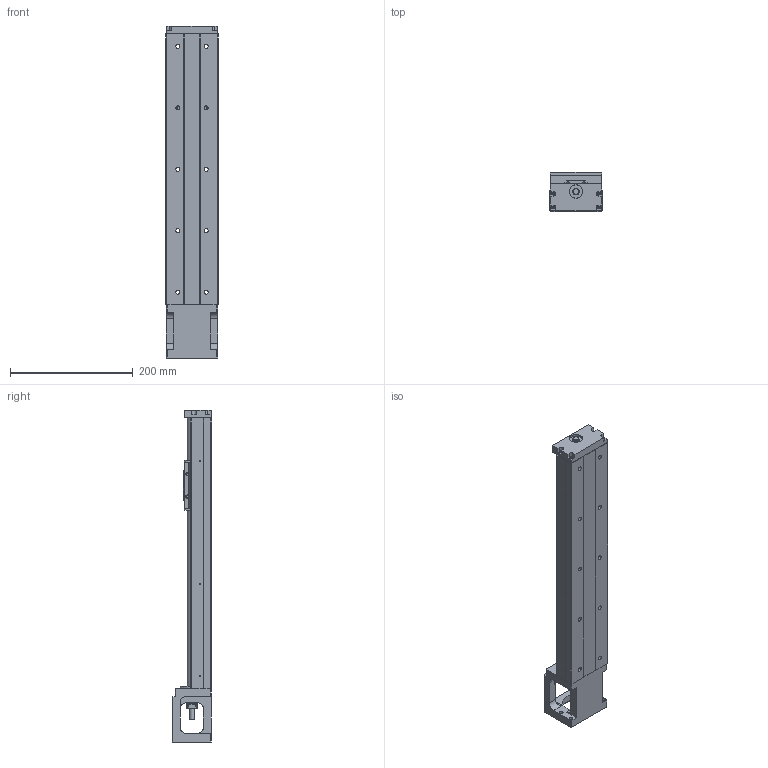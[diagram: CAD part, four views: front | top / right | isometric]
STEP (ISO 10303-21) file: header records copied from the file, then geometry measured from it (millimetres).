
FILE_DESCRIPTION(/* description */ (''),/* implementation_level */ '2;1');
FILE_NAME(/* name */ '46S-440low.stp',/* time_stamp */ '2018-02-12T11:42:16+08:00',/* author */ (''),/* organization */ (''),/* preprocessor_version */ 'ST-DEVELOPER v11',/* originating_system */ 'SIEMENS UGS NX 6.0',/* authorisation */ '');
FILE_SCHEMA (('AUTOMOTIVE_DESIGN { 1 0 10303 214 1 1 1 1 }'));
Length unit declared in the file: millimetre
Products named in the file (1): 3.069
Bounding box: 86 x 64 x 540 mm (x, y, z)
Volume: 1122994.9 mm3; surface area: 247255 mm2
Topology: 5 solids, 16 shells, 611 faces, 1614 edges, 1066 vertices
Faces by surface type: plane 281, cylinder 220, cone 55, bspline 47, torus 8
Full cylindrical faces by diameter (mm): 2 x2, 2.11 x2, 2.15 x6, 2.42 x6, 3 x4, 3.2 x4, 3.3 x6, 3.4 x8, 4 x2, 4.2 x4, 4.5 x8, 5 x6, 6 x8, 6.35 x2, 6.6 x10, 6.7 x2, 8 x1, 8.7 x4, 9.6 x1, 10 x3, 11 x10, 12 x1, 14.95 x2, 15 x1, 16 x2, 22 x3, 27.5 x1, 44 x1, 50 x1
Entity records: 30943 total; most frequent: CARTESIAN_POINT 12807, ORIENTED_EDGE 2776, DIRECTION 2647, EDGE_CURVE 1388, VERTEX_POINT 998, AXIS2_PLACEMENT_3D 989, EDGE_LOOP 858, LINE 669
